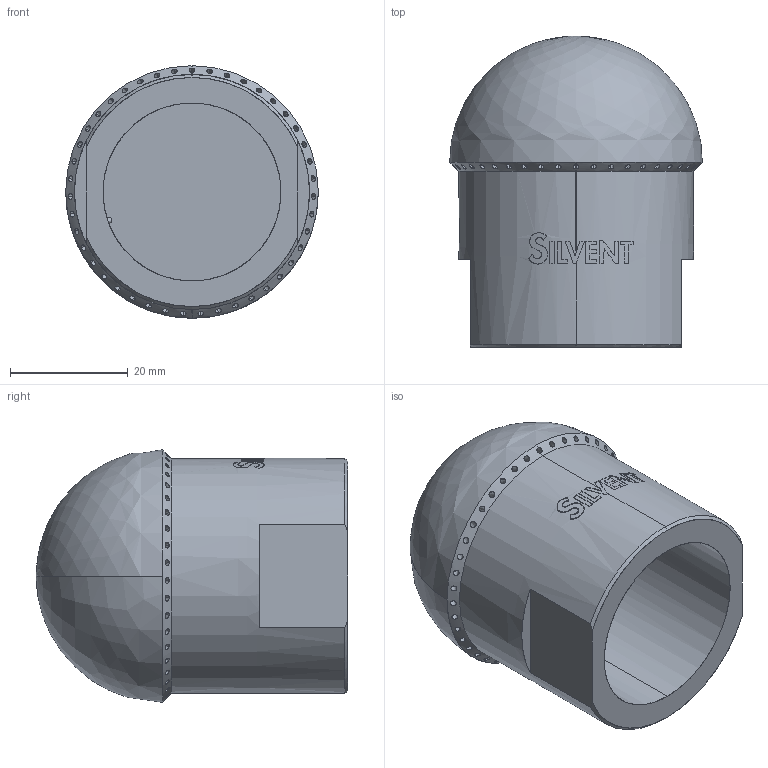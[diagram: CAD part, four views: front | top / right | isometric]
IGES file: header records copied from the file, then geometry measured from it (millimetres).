
Start section: SolidWorks IGES file using analytic representation for surfaces
Global section: file name: P:\SILVENT AB\ENGINEERING\Drawings\ÖVRIGT\IGES\Silvent 912.IGS; native system: SolidWorks 2016; preprocessor: SolidWorks 2016; author: p.svensson; date: 160412.161527; units: millimetre
Bounding box: 43 x 53 x 43 mm (x, y, z)
Surface area: 12872.7 mm2 (no closed solid volume)
Topology: 0 solids, 0 shells, 235 faces, 3492 edges, 3488 vertices
Faces by surface type: revolution 181, bspline 54
